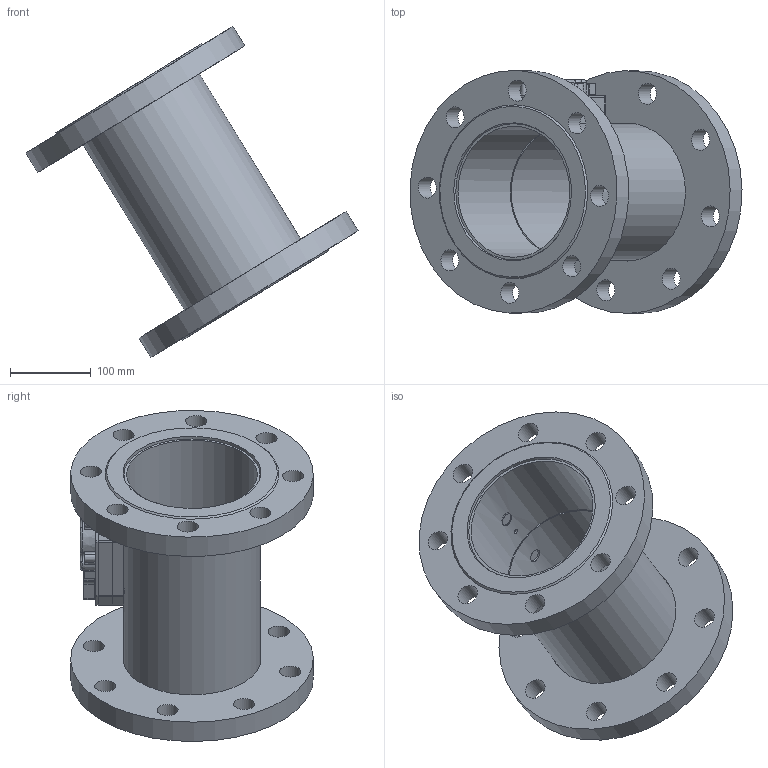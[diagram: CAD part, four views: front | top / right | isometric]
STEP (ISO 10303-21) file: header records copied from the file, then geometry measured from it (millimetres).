
FILE_DESCRIPTION( ( 'Unknown' ), '1' );
FILE_NAME( 'H:/440 pour vente_mai_2013/step_2/DN150_PN25_inox_300mm_rempli.stp', 'Unknown', ( 'Unknown' ), ( 'Unknown' ), 'PSStep 15.0.49', 'Unknown', ' ' );
FILE_SCHEMA( ( 'AUTOMOTIVE_DESIGN { 1 0 10303 214 1 1 1 1 }' ) );
Length unit declared in the file: millimetre
Products named in the file (9): 440_tête_rempli; 0440P011_rempli; 0440P012_rempli; 0440P060_rempli; Assem1; 0440P202_rempli; 0440P225_rempli; 0440P235_rempli; 0440P303_rempli
Assembly tree (10 placements, depth 3):
  Assem1
    0440P202_rempli
    0440P225_rempli  x2
    0440P235_rempli
    0440P303_rempli  x2
    440_tête_rempli
      0440P011_rempli
      0440P012_rempli
      0440P060_rempli
Bounding box: 410.24 x 299.95 x 408.97 mm (x, y, z)
Volume: 3509603.1 mm3; surface area: 695062 mm2
Topology: 9 solids, 14 shells, 276 faces, 701 edges, 440 vertices
Faces by surface type: cylinder 96, plane 79, cone 57, torus 29, bspline 15
Full cylindrical faces by diameter (mm): 2.2 x1, 2.459 x2, 2.5 x1, 3 x2, 3.242 x4, 4.1 x1, 5.03 x1, 6 x1, 6.2 x6, 6.917 x2, 10.2 x2, 16 x2, 20 x4, 26 x16, 162 x1, 168.3 x1, 170.5 x2, 300 x2
Entity records: 13572 total; most frequent: CARTESIAN_POINT 5526, DIRECTION 1281, ORIENTED_EDGE 1090, EDGE_CURVE 545, AXIS2_PLACEMENT_3D 538, VERTEX_POINT 377, EDGE_LOOP 362, FACE_OUTER_BOUND 297
